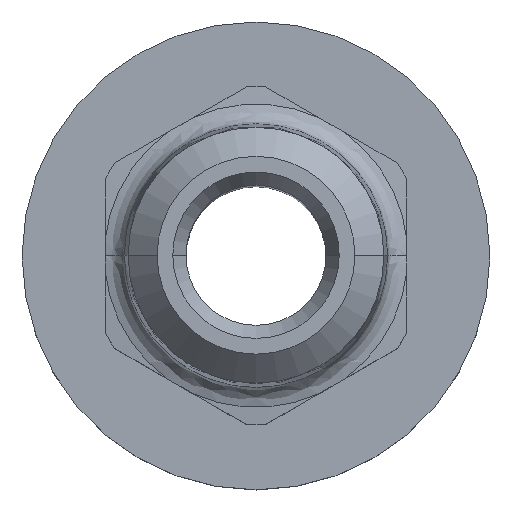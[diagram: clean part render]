
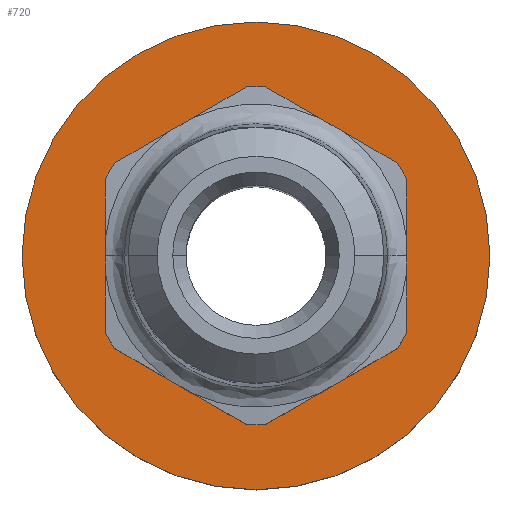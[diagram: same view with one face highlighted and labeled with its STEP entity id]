
A CAD part, top view. The second image highlights one B-rep face of the part: STEP entity #720.
In plain terms, the highlighted planar face has unit normal (0, 0, 1).
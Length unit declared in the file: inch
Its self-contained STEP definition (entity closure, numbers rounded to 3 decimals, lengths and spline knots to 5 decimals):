
#15 = AXIS2_PLACEMENT_3D ( 'NONE', #971, #961, #254 ) ;
#50 = CARTESIAN_POINT ( 'NONE',  ( -0.28775, 0., -0.52213 ) ) ;
#75 = ORIENTED_EDGE ( 'NONE', *, *, #1476, .F. ) ;
#133 = EDGE_LOOP ( 'NONE', ( #1322, #75 ) ) ;
#143 = AXIS2_PLACEMENT_3D ( 'NONE', #1484, #320, #1760 ) ;
#254 = DIRECTION ( 'NONE',  ( -1., 0., 0. ) ) ;
#320 = DIRECTION ( 'NONE',  ( 0., 0., -1. ) ) ;
#345 = AXIS2_PLACEMENT_3D ( 'NONE', #1413, #710, #1120 ) ;
#357 = EDGE_CURVE ( 'NONE', #1857, #1639, #1286, .T. ) ;
#375 = FACE_OUTER_BOUND ( 'NONE', #593, .T. ) ;
#416 = VERTEX_POINT ( 'NONE', #50 ) ;
#418 = CARTESIAN_POINT ( 'NONE',  ( 0., 0., -0.52213 ) ) ;
#428 = ORIENTED_EDGE ( 'NONE', *, *, #357, .F. ) ;
#457 = DIRECTION ( 'NONE',  ( 0., 0., 1. ) ) ;
#571 = CARTESIAN_POINT ( 'NONE',  ( 0., 0., -0.52213 ) ) ;
#593 = EDGE_LOOP ( 'NONE', ( #428, #875 ) ) ;
#658 = CARTESIAN_POINT ( 'NONE',  ( -0.48425, 0., -0.52213 ) ) ;
#664 = EDGE_CURVE ( 'NONE', #1639, #1857, #1127, .T. ) ;
#686 = CARTESIAN_POINT ( 'NONE',  ( 0.48425, 0., -0.52213 ) ) ;
#710 = DIRECTION ( 'NONE',  ( 0., 0., -1. ) ) ;
#720 = ADVANCED_FACE ( 'NONE', ( #1371, #375 ), #1323, .F. ) ;
#725 = DIRECTION ( 'NONE',  ( 1., 0., 0. ) ) ;
#839 = EDGE_CURVE ( 'NONE', #1440, #416, #1383, .T. ) ;
#859 = DIRECTION ( 'NONE',  ( 0., 0., 1. ) ) ;
#875 = ORIENTED_EDGE ( 'NONE', *, *, #664, .F. ) ;
#961 = DIRECTION ( 'NONE',  ( 0., 0., -1. ) ) ;
#971 = CARTESIAN_POINT ( 'NONE',  ( 0., 0., -0.52213 ) ) ;
#1120 = DIRECTION ( 'NONE',  ( -1., 0., 0. ) ) ;
#1127 = CIRCLE ( 'NONE', #15, 0.48425 ) ;
#1138 = DIRECTION ( 'NONE',  ( 1., 0., 0. ) ) ;
#1221 = CARTESIAN_POINT ( 'NONE',  ( 0.28775, 0., -0.52213 ) ) ;
#1286 = CIRCLE ( 'NONE', #345, 0.48425 ) ;
#1322 = ORIENTED_EDGE ( 'NONE', *, *, #839, .F. ) ;
#1323 = PLANE ( 'NONE',  #143 ) ;
#1371 = FACE_BOUND ( 'NONE', #133, .T. ) ;
#1383 = CIRCLE ( 'NONE', #1411, 0.28775 ) ;
#1411 = AXIS2_PLACEMENT_3D ( 'NONE', #571, #457, #725 ) ;
#1413 = CARTESIAN_POINT ( 'NONE',  ( 0., 0., -0.52213 ) ) ;
#1440 = VERTEX_POINT ( 'NONE', #1221 ) ;
#1462 = CIRCLE ( 'NONE', #1595, 0.28775 ) ;
#1476 = EDGE_CURVE ( 'NONE', #416, #1440, #1462, .T. ) ;
#1484 = CARTESIAN_POINT ( 'NONE',  ( 0., 0., -0.52213 ) ) ;
#1595 = AXIS2_PLACEMENT_3D ( 'NONE', #418, #859, #1138 ) ;
#1639 = VERTEX_POINT ( 'NONE', #686 ) ;
#1760 = DIRECTION ( 'NONE',  ( -1., 0., 0. ) ) ;
#1857 = VERTEX_POINT ( 'NONE', #658 ) ;
